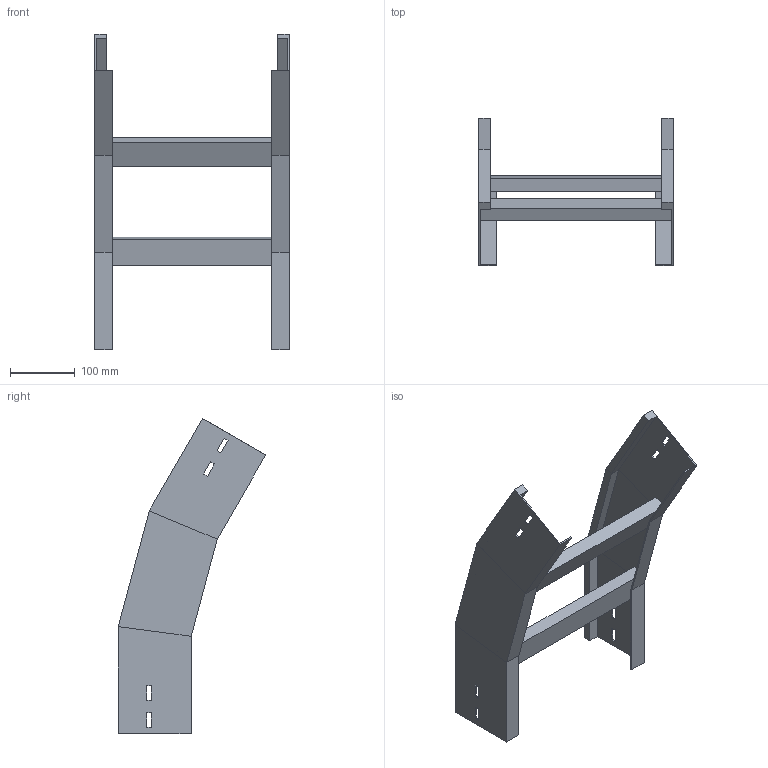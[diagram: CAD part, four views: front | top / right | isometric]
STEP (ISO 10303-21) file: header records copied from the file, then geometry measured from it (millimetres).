
FILE_DESCRIPTION (( 'STEP AP214' ), '1' );
FILE_NAME ('A2_35B3J300.step', '2025-02-21T14:47:53', ( '' ), ( '' ), 'SwSTEP 2.0', 'SolidWorks 2023', '' );
FILE_SCHEMA (( 'AUTOMOTIVE_DESIGN' ));
Length unit declared in the file: millimetre
Products named in the file (3): LONGH.DISCESA_30°_H112.5_R300; A2_35B3J300; TRAVERSINO_300
Assembly tree (5 placements, depth 2):
  A2_35B3J300
    LONGH.DISCESA_30°_H112.5_R300  x2
    TRAVERSINO_300  x3
Bounding box: 300 x 227.62 x 485.87 mm (x, y, z)
Volume: 1176704.7 mm3; surface area: 412858.8 mm2
Topology: 5 solids, 5 shells, 102 faces, 244 edges, 152 vertices
Faces by surface type: plane 102
Entity records: 1480 total; most frequent: CARTESIAN_POINT 244, ORIENTED_EDGE 232, DIRECTION 228, EDGE_CURVE 116, LINE 116, VECTOR 116, VERTEX_POINT 72, EDGE_LOOP 56
